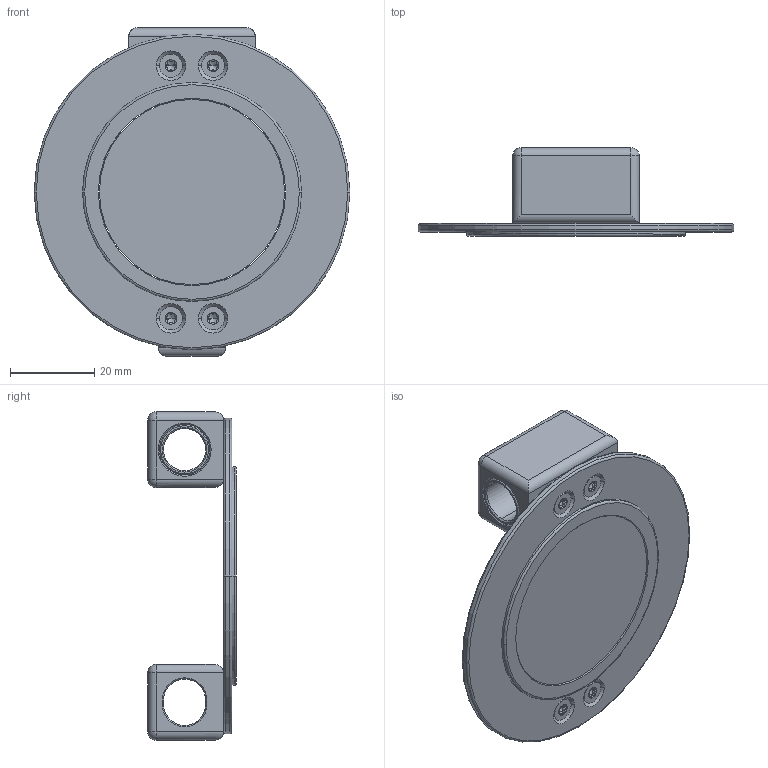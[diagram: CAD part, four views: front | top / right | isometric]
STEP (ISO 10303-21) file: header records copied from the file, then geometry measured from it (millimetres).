
FILE_DESCRIPTION((''),'2;1');
FILE_NAME('0000434689_ASM','2021-08-26T14:17:51',('pdmservice'),(''),'CREO PARAMETRIC BY PTC INC, 2018420','CREO PARAMETRIC BY PTC INC, 2018420','');
FILE_SCHEMA(('AUTOMOTIVE_DESIGN { 1 0 10303 214 1 1 1 1 }'));
Length unit declared in the file: millimetre
Products named in the file (7): 0000419222_PRT; 0000434703_PRT; 0000110991_PRT; 0000434711_PRT; 0000434828_PRT; 0000434826_PRT; 0000434689_ASM
Assembly tree (10 placements, depth 2):
  0000434689_ASM
    0000419222_PRT
    0000434703_PRT
    0000110991_PRT  x2
    0000434711_PRT
    0000434828_PRT
    0000434826_PRT  x4
Bounding box: 75 x 21 x 78 mm (x, y, z)
Volume: 18028 mm3; surface area: 17209 mm2
Topology: 10 solids, 18 shells, 321 faces, 774 edges, 476 vertices
Faces by surface type: cylinder 145, cone 82, plane 72, torus 14, sphere 8
Entity records: 12389 total; most frequent: CARTESIAN_POINT 1835, DIRECTION 956, ORIENTED_EDGE 836, PROPERTY_DEFINITION 829, REPRESENTATION 820, PROPERTY_DEFINITION_REPRESENTATION 820, DESCRIPTIVE_REPRESENTATION_ITEM 726, GENERAL_PROPERTY 700
